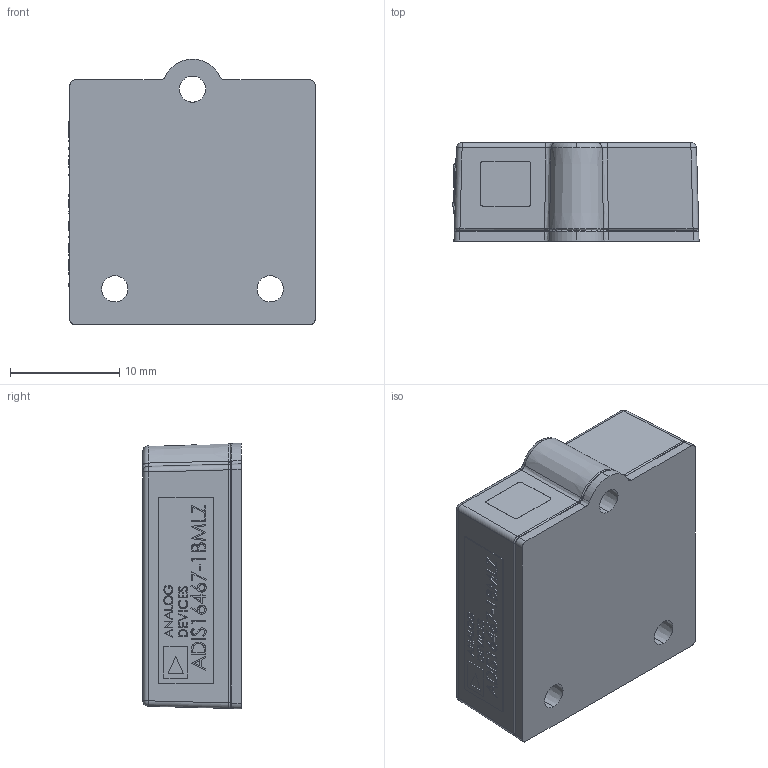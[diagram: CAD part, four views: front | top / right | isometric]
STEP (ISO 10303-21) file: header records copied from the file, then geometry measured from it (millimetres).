
FILE_DESCRIPTION (( 'STEP AP214' ), '1' );
FILE_NAME ('ADIS16467-1BMLZ.STEP', '2017-11-30T22:36:45', ( '' ), ( '' ), 'SwSTEP 2.0', 'SolidWorks 2016', '' );
FILE_SCHEMA (( 'AUTOMOTIVE_DESIGN' ));
Length unit declared in the file: millimetre
Products named in the file (5): ADiS16460 Assembly_HRB2_CDS_3-17-16; ADIS16460_Base rev4_HRB2_No Skirt_CDS_3-17-15; ADIS16460_Lid Rev5_HRB2_No-Skirt_CDS_3-17-16; ADIS16467-1BMLZ; FTMH-Conn-Stacker_14Pin
Assembly tree (4 placements, depth 3):
  ADIS16467-1BMLZ
    ADIS16460_Base rev4_HRB2_No Skirt_CDS_3-17-15
    ADiS16460 Assembly_HRB2_CDS_3-17-16
      FTMH-Conn-Stacker_14Pin
    ADIS16460_Lid Rev5_HRB2_No-Skirt_CDS_3-17-16
Bounding box: 22.49 x 9 x 24.3 mm (x, y, z)
Volume: 2281.6 mm3; surface area: 4098.7 mm2
Topology: 32 solids, 34 shells, 1477 faces, 3974 edges, 2565 vertices
Faces by surface type: plane 960, bspline 304, cylinder 119, torus 38, cone 38, sphere 18
Entity records: 73021 total; most frequent: CARTESIAN_POINT 24743, ORIENTED_EDGE 7656, DIRECTION 6029, EDGE_CURVE 3954, LINE 2899, VECTOR 2899, VERTEX_POINT 2561, EDGE_LOOP 1621
